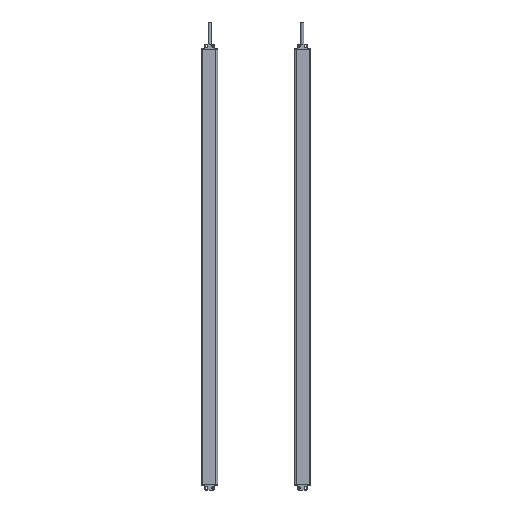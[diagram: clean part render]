
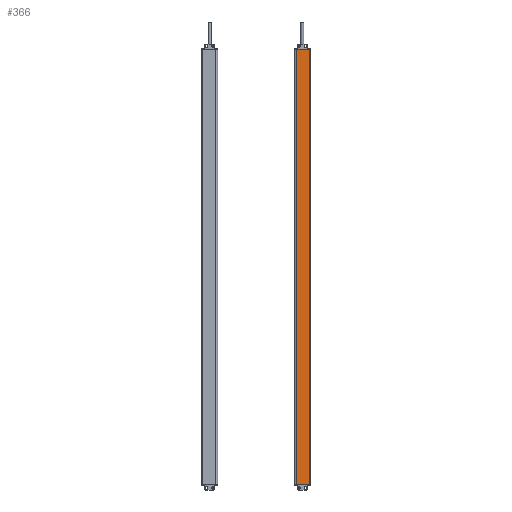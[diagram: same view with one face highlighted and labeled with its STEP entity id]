
A CAD part, front view. The second image highlights one B-rep face of the part: STEP entity #366.
In plain terms, the highlighted planar face has unit normal (0, -1, 0).
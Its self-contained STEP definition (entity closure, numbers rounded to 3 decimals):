
#123=PLANE('',#5869);
#366=ADVANCED_FACE('',(#797),#123,.T.);
#797=FACE_OUTER_BOUND('',#1073,.T.);
#1073=EDGE_LOOP('',(#1780,#1781,#1782,#1783));
#1780=ORIENTED_EDGE('',*,*,#3977,.T.);
#1781=ORIENTED_EDGE('',*,*,#3978,.F.);
#1782=ORIENTED_EDGE('',*,*,#3979,.F.);
#1783=ORIENTED_EDGE('',*,*,#3903,.T.);
#3351=VERTEX_POINT('',#8106);
#3352=VERTEX_POINT('',#8108);
#3421=VERTEX_POINT('',#8253);
#3422=VERTEX_POINT('',#8257);
#3903=EDGE_CURVE('',#3352,#3351,#4726,.T.);
#3977=EDGE_CURVE('',#3351,#3421,#4771,.T.);
#3978=EDGE_CURVE('',#3422,#3421,#4772,.T.);
#3979=EDGE_CURVE('',#3352,#3422,#4773,.T.);
#4726=LINE('',#8107,#5280);
#4771=LINE('',#8254,#5325);
#4772=LINE('',#8256,#5326);
#4773=LINE('',#8258,#5327);
#5280=VECTOR('',#6413,1.);
#5325=VECTOR('',#6522,1.);
#5326=VECTOR('',#6525,1.);
#5327=VECTOR('',#6526,1.);
#5869=AXIS2_PLACEMENT_3D('',#8259,#6527,#6528);
#6413=DIRECTION('',(1.,0.,0.));
#6522=DIRECTION('',(0.,0.,1.));
#6525=DIRECTION('',(1.,0.,0.));
#6526=DIRECTION('',(0.,0.,1.));
#6527=DIRECTION('',(0.,-1.,0.));
#6528=DIRECTION('',(-1.,0.,0.));
#8106=CARTESIAN_POINT('',(3.35,-1.3,-100.));
#8107=CARTESIAN_POINT('',(-21.15,-1.3,-100.));
#8108=CARTESIAN_POINT('',(-21.15,-1.3,-100.));
#8253=CARTESIAN_POINT('',(3.35,-1.3,702.));
#8254=CARTESIAN_POINT('',(3.35,-1.3,-100.));
#8256=CARTESIAN_POINT('',(-4122.897,-1.3,702.));
#8257=CARTESIAN_POINT('',(-21.15,-1.3,702.));
#8258=CARTESIAN_POINT('',(-21.15,-1.3,-100.));
#8259=CARTESIAN_POINT('',(-21.15,-1.3,-100.));
